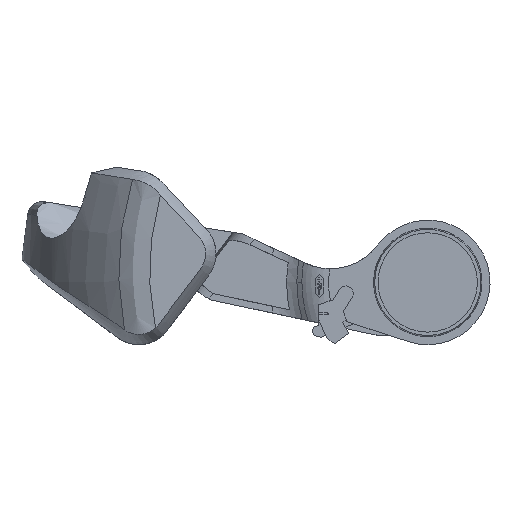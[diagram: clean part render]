
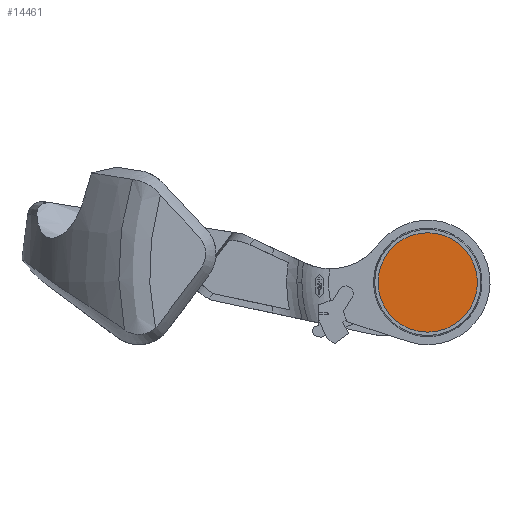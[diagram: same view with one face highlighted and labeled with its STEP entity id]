
A CAD part, front view. The second image highlights one B-rep face of the part: STEP entity #14461.
In plain terms, the highlighted planar face has unit normal (0, -1, 0).
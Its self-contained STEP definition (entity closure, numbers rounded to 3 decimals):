
#460 = CARTESIAN_POINT ( 'NONE',  ( 420., -210., 1000. ) ) ;
#1826 = VERTEX_POINT ( 'NONE', #4883 ) ;
#2101 = DIRECTION ( 'NONE',  ( -1., 0., 0. ) ) ;
#3424 = EDGE_CURVE ( 'NONE', #9659, #1826, #11271, .T. ) ;
#4883 = CARTESIAN_POINT ( 'NONE',  ( 587.5, -210., 1000. ) ) ;
#5267 = AXIS2_PLACEMENT_3D ( 'NONE', #460, #10851, #2101 ) ;
#5476 = ORIENTED_EDGE ( 'NONE', *, *, #19429, .F. ) ;
#7056 = DIRECTION ( 'NONE',  ( 1., 0., 0. ) ) ;
#7361 = DIRECTION ( 'NONE',  ( 0., 1., 0. ) ) ;
#9659 = VERTEX_POINT ( 'NONE', #10562 ) ;
#10562 = CARTESIAN_POINT ( 'NONE',  ( 252.5, -210., 1000. ) ) ;
#10851 = DIRECTION ( 'NONE',  ( 0., 1., 0. ) ) ;
#11271 = CIRCLE ( 'NONE', #13337, 167.5 ) ;
#12009 = CIRCLE ( 'NONE', #5267, 167.5 ) ;
#13337 = AXIS2_PLACEMENT_3D ( 'NONE', #16097, #7361, #17592 ) ;
#14302 = PLANE ( 'NONE',  #16470 ) ;
#14461 = ADVANCED_FACE ( 'NONE', ( #16260 ), #14302, .T. ) ;
#15709 = CARTESIAN_POINT ( 'NONE',  ( 420., -210., 1000. ) ) ;
#15776 = DIRECTION ( 'NONE',  ( 0., -1., 0. ) ) ;
#16097 = CARTESIAN_POINT ( 'NONE',  ( 420., -210., 1000. ) ) ;
#16260 = FACE_OUTER_BOUND ( 'NONE', #18883, .T. ) ;
#16470 = AXIS2_PLACEMENT_3D ( 'NONE', #15709, #15776, #7056 ) ;
#17592 = DIRECTION ( 'NONE',  ( -1., 0., 0. ) ) ;
#18129 = ORIENTED_EDGE ( 'NONE', *, *, #3424, .F. ) ;
#18883 = EDGE_LOOP ( 'NONE', ( #18129, #5476 ) ) ;
#19429 = EDGE_CURVE ( 'NONE', #1826, #9659, #12009, .T. ) ;
